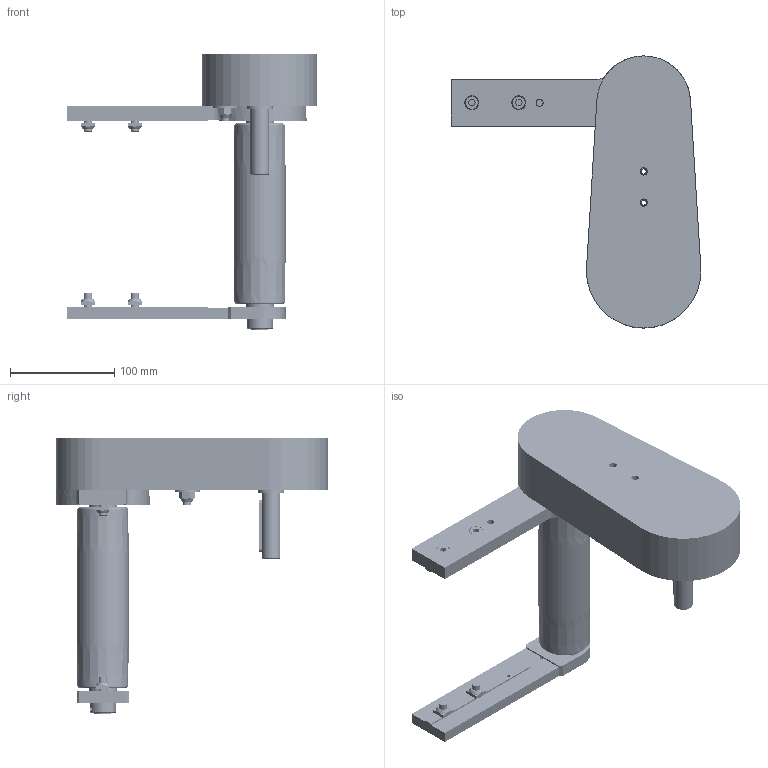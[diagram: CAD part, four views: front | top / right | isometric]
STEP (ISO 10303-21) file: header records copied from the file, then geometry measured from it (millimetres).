
FILE_DESCRIPTION (( 'STEP AP203' ), '1' );
FILE_NAME ('084.050.KTC.44.150.STEP', '2019-07-29T13:17:01', ( '' ), ( '' ), 'SwSTEP 2.0', 'SolidWorks 2018', '' );
FILE_SCHEMA (( 'CONFIG_CONTROL_DESIGN' ));
Length unit declared in the file: millimetre
Products named in the file (24): CHIAVETTE_A 6x6x50 UNI 6604-69; 084.813.001; 084.810.004; 084.803.012; 084.810.001; 084.810.005; RONDELLE FASCIA LARGA UNI 6593_8.4x24 UNI 6593; 084.809.003; 084.809.001; 084.802.034_084.802.034; 084.810.010; 084.811.004; 084.807.002_084.807.002; 084.803.014; 084.815.102_Default<A macchina>; Circlip DIN 471 - 8 x 0.8_Circlip DIN 471 - 8 x 0.8; 084.050.KTC.44.150; DADI ESAGONALI AUTOBLOCCANTI UNI 7473 INOX_M8 UNI 7473 INOX; 084.807.001_084.807.001; 084.301.000 VITI ALUSIC_084.301.003; 084.813.004; 084.802.017_084.802.017; CUSCINETTI A SFERE_608-2RS; 084.302.000 DADI ALUSIC 13x13_084.302.004
Assembly tree (32 placements, depth 3):
  084.050.KTC.44.150
    084.815.102_Default<A macchina>
    084.811.004
    084.813.001
    084.810.001  x2
    084.802.034_084.802.034
    084.802.017_084.802.017
    084.807.001_084.807.001
    084.807.002_084.807.002
    084.803.014  x2
    084.813.004
    084.803.012
    084.809.001
    084.809.003
    084.810.005
      084.810.010
      084.810.004
      CUSCINETTI A SFERE_608-2RS  x2
      Circlip DIN 471 - 8 x 0.8_Circlip DIN 471 - 8 x 0.8
      RONDELLE FASCIA LARGA UNI 6593_8.4x24 UNI 6593
      DADI ESAGONALI AUTOBLOCCANTI UNI 7473 INOX_M8 UNI 7473 INOX
    084.301.000 VITI ALUSIC_084.301.003  x4
    084.302.000 DADI ALUSIC 13x13_084.302.004  x4
    CHIAVETTE_A 6x6x50 UNI 6604-69
Bounding box: 240 x 261.5 x 266 mm (x, y, z)
Volume: 772130.7 mm3; surface area: 434465.7 mm2
Topology: 61 solids, 62 shells, 2851 faces, 6729 edges, 4301 vertices
Faces by surface type: cylinder 1397, plane 719, bspline 468, cone 172, torus 86, sphere 9
Entity records: 81213 total; most frequent: CARTESIAN_POINT 18476, DIRECTION 13639, ORIENTED_EDGE 11856, EDGE_CURVE 5928, AXIS2_PLACEMENT_3D 5757, VERTEX_POINT 3778, CIRCLE 3640, EDGE_LOOP 3100
